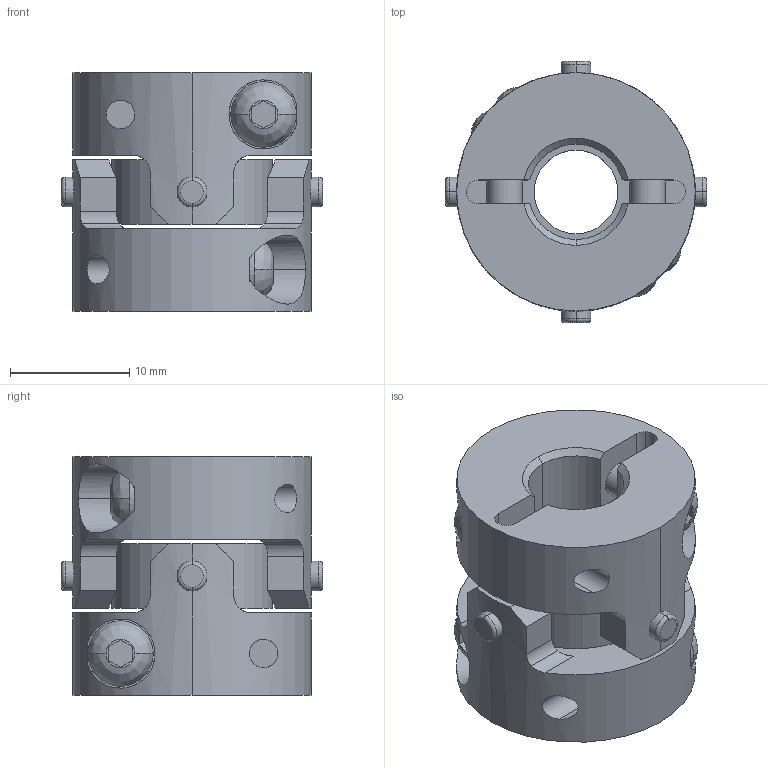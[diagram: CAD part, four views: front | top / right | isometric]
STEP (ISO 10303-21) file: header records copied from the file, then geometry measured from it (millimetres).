
FILE_DESCRIPTION((''),'2;1');
FILE_NAME('UA-20C-8×8.stp','2013-05-16T09:05:46',(''),(''),'AutoCAD STEP 2000i','AutoCAD 2000i',', , ');
FILE_SCHEMA(('CONFIG_CONTROL_DESIGN'));
Length unit declared in the file: millimetre
Products named in the file (8): UA-20C-7×7; 忣兜1; UA-2002-D07-1; BTN-M3; UA-2002-D07; UA-2002-D04-1; UA-2002-D04; UA20-SEN
Assembly tree (10 placements, depth 3):
  UA-20C-7×7
    忣兜1
    UA-2002-D07-1
      BTN-M3
    UA-2002-D07
      BTN-M3
    UA-2002-D04-1
      BTN-M3
    UA-2002-D04
      BTN-M3
    UA20-SEN
Bounding box: 21.89 x 21.89 x 20 mm (x, y, z)
Volume: 4211.7 mm3; surface area: 3801.7 mm2
Topology: 1 solids, 1 shells, 206 faces, 554 edges, 364 vertices
Faces by surface type: cylinder 96, plane 78, cone 16, bspline 8, torus 8
Entity records: 8035 total; most frequent: CARTESIAN_POINT 2679, ORIENTED_EDGE 1108, DIRECTION 1072, EDGE_CURVE 554, AXIS2_PLACEMENT_3D 413, VERTEX_POINT 364, VECTOR 246, LINE 246
